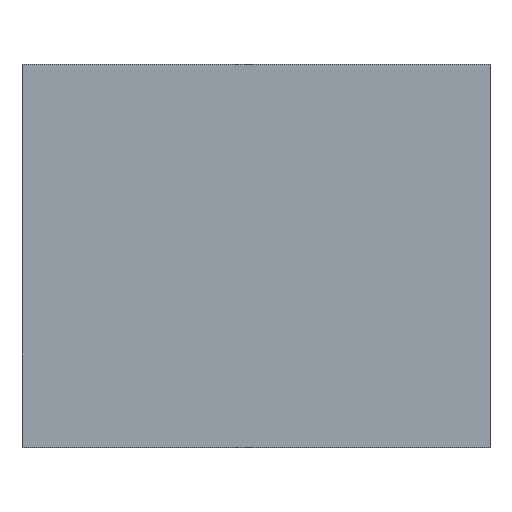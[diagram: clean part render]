
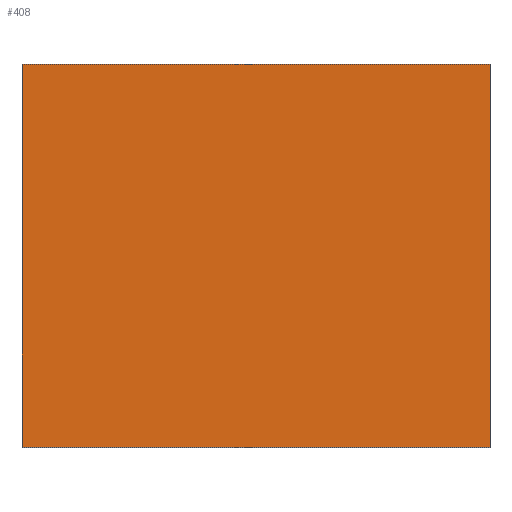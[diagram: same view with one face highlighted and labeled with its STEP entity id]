
A CAD part, top view. The second image highlights one B-rep face of the part: STEP entity #408.
In plain terms, the highlighted planar face has unit normal (0, 0, 1).
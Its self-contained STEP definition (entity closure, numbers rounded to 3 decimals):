
#50 = AXIS2_PLACEMENT_3D ( 'NONE', #574, #999, #200 ) ;
#82 = DIRECTION ( 'NONE',  ( 0., 1., 0. ) ) ;
#200 = DIRECTION ( 'NONE',  ( -1., 0., 0. ) ) ;
#221 = CARTESIAN_POINT ( 'NONE',  ( 0., 54., 19. ) ) ;
#232 = VECTOR ( 'NONE', #1074, 1000. ) ;
#271 = VECTOR ( 'NONE', #656, 1000. ) ;
#277 = PLANE ( 'NONE',  #50 ) ;
#278 = EDGE_CURVE ( 'NONE', #1013, #807, #458, .T. ) ;
#304 = EDGE_CURVE ( 'NONE', #336, #446, #886, .T. ) ;
#336 = VERTEX_POINT ( 'NONE', #344 ) ;
#344 = CARTESIAN_POINT ( 'NONE',  ( 66., 0., 19. ) ) ;
#389 = VECTOR ( 'NONE', #82, 1000. ) ;
#404 = CARTESIAN_POINT ( 'NONE',  ( 0., 54., 19. ) ) ;
#408 = ADVANCED_FACE ( 'NONE', ( #732 ), #277, .F. ) ;
#446 = VERTEX_POINT ( 'NONE', #938 ) ;
#458 = LINE ( 'NONE', #800, #232 ) ;
#509 = ORIENTED_EDGE ( 'NONE', *, *, #589, .T. ) ;
#569 = EDGE_LOOP ( 'NONE', ( #670, #926, #1084, #509 ) ) ;
#574 = CARTESIAN_POINT ( 'NONE',  ( 0., 0., 19. ) ) ;
#583 = DIRECTION ( 'NONE',  ( -1., 0., 0. ) ) ;
#589 = EDGE_CURVE ( 'NONE', #446, #1013, #842, .T. ) ;
#656 = DIRECTION ( 'NONE',  ( 1., 0., 0. ) ) ;
#670 = ORIENTED_EDGE ( 'NONE', *, *, #278, .T. ) ;
#732 = FACE_OUTER_BOUND ( 'NONE', #569, .T. ) ;
#747 = CARTESIAN_POINT ( 'NONE',  ( 0., 0., 19. ) ) ;
#800 = CARTESIAN_POINT ( 'NONE',  ( 0., 0., 19. ) ) ;
#807 = VERTEX_POINT ( 'NONE', #1014 ) ;
#842 = LINE ( 'NONE', #221, #952 ) ;
#859 = LINE ( 'NONE', #747, #271 ) ;
#882 = CARTESIAN_POINT ( 'NONE',  ( 66., 0., 19. ) ) ;
#886 = LINE ( 'NONE', #882, #389 ) ;
#926 = ORIENTED_EDGE ( 'NONE', *, *, #984, .T. ) ;
#938 = CARTESIAN_POINT ( 'NONE',  ( 66., 54., 19. ) ) ;
#952 = VECTOR ( 'NONE', #583, 1000. ) ;
#984 = EDGE_CURVE ( 'NONE', #807, #336, #859, .T. ) ;
#999 = DIRECTION ( 'NONE',  ( 0., 0., -1. ) ) ;
#1013 = VERTEX_POINT ( 'NONE', #404 ) ;
#1014 = CARTESIAN_POINT ( 'NONE',  ( 0., 0., 19. ) ) ;
#1074 = DIRECTION ( 'NONE',  ( 0., -1., 0. ) ) ;
#1084 = ORIENTED_EDGE ( 'NONE', *, *, #304, .T. ) ;
